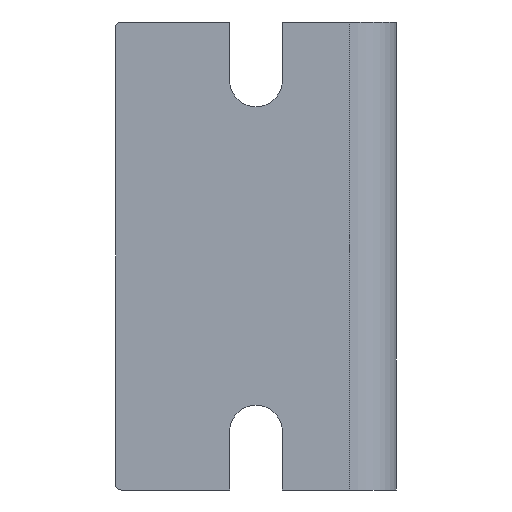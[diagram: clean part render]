
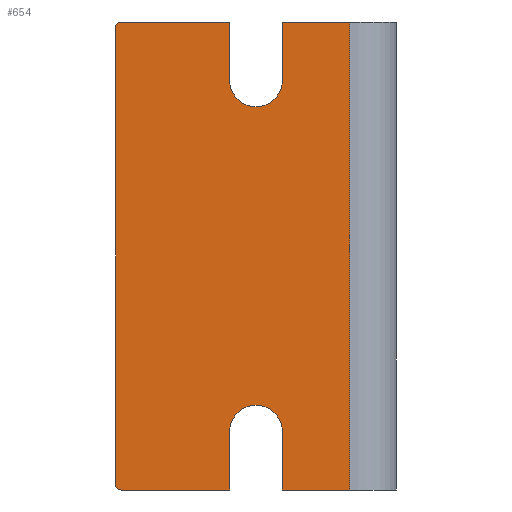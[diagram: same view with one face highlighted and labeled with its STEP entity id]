
A CAD part, front view. The second image highlights one B-rep face of the part: STEP entity #654.
In plain terms, the highlighted planar face has unit normal (0, -1, 0).
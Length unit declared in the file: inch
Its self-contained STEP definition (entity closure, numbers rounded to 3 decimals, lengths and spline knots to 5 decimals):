
#6=DIRECTION('',(1.,0.,0.));
#7=VECTOR('',#6,0.3595);
#8=CARTESIAN_POINT('',(-0.6095,-1.,-1.25));
#9=LINE('',#8,#7);
#35=DIRECTION('',(1.,0.,0.));
#36=VECTOR('',#35,0.5795);
#37=CARTESIAN_POINT('',(-1.47,-1.,-1.25));
#38=LINE('',#37,#36);
#123=CARTESIAN_POINT('',(-1.47,-1.,1.22));
#124=DIRECTION('',(0.,-1.,0.));
#125=DIRECTION('',(0.,0.,1.));
#126=AXIS2_PLACEMENT_3D('',#123,#124,#125);
#128=DIRECTION('',(0.,0.,-1.));
#129=VECTOR('',#128,0.3125);
#130=CARTESIAN_POINT('',(-0.8905,-1.,1.25));
#131=LINE('',#130,#129);
#132=CARTESIAN_POINT('',(-0.75,-1.,0.9375));
#133=DIRECTION('',(0.,1.,0.));
#134=DIRECTION('',(1.,0.,0.));
#135=AXIS2_PLACEMENT_3D('',#132,#133,#134);
#137=DIRECTION('',(0.,0.,-1.));
#138=VECTOR('',#137,0.3125);
#139=CARTESIAN_POINT('',(-0.6095,-1.,1.25));
#140=LINE('',#139,#138);
#141=DIRECTION('',(0.,0.,-1.));
#142=VECTOR('',#141,2.5);
#143=CARTESIAN_POINT('',(-0.25,-1.,1.25));
#144=LINE('',#143,#142);
#145=DIRECTION('',(0.,0.,1.));
#146=VECTOR('',#145,0.3125);
#147=CARTESIAN_POINT('',(-0.6095,-1.,-1.25));
#148=LINE('',#147,#146);
#149=CARTESIAN_POINT('',(-0.75,-1.,-0.9375));
#150=DIRECTION('',(0.,1.,0.));
#151=DIRECTION('',(-1.,0.,0.));
#152=AXIS2_PLACEMENT_3D('',#149,#150,#151);
#154=DIRECTION('',(0.,0.,1.));
#155=VECTOR('',#154,0.3125);
#156=CARTESIAN_POINT('',(-0.8905,-1.,-1.25));
#157=LINE('',#156,#155);
#158=CARTESIAN_POINT('',(-1.47,-1.,-1.22));
#159=DIRECTION('',(0.,-1.,0.));
#160=DIRECTION('',(-1.,0.,0.));
#161=AXIS2_PLACEMENT_3D('',#158,#159,#160);
#163=DIRECTION('',(0.,0.,1.));
#164=VECTOR('',#163,2.44);
#165=CARTESIAN_POINT('',(-1.5,-1.,-1.22));
#166=LINE('',#165,#164);
#192=DIRECTION('',(1.,0.,0.));
#193=VECTOR('',#192,0.3595);
#194=CARTESIAN_POINT('',(-0.6095,-1.,1.25));
#195=LINE('',#194,#193);
#208=DIRECTION('',(1.,0.,0.));
#209=VECTOR('',#208,0.5795);
#210=CARTESIAN_POINT('',(-1.47,-1.,1.25));
#211=LINE('',#210,#209);
#393=CARTESIAN_POINT('',(-0.25,-1.,-1.25));
#395=VERTEX_POINT('',#393);
#396=CARTESIAN_POINT('',(-0.25,-1.,1.25));
#397=VERTEX_POINT('',#396);
#424=CARTESIAN_POINT('',(-0.6095,-1.,-1.25));
#426=VERTEX_POINT('',#424);
#428=CARTESIAN_POINT('',(-0.8905,-1.,-1.25));
#430=VERTEX_POINT('',#428);
#432=CARTESIAN_POINT('',(-0.8905,-1.,1.25));
#434=VERTEX_POINT('',#432);
#436=CARTESIAN_POINT('',(-0.6095,-1.,1.25));
#438=VERTEX_POINT('',#436);
#448=CARTESIAN_POINT('',(-0.6095,-1.,-0.9375));
#449=VERTEX_POINT('',#448);
#450=CARTESIAN_POINT('',(-0.8905,-1.,-0.9375));
#451=VERTEX_POINT('',#450);
#452=CARTESIAN_POINT('',(-0.6095,-1.,0.9375));
#453=CARTESIAN_POINT('',(-0.8905,-1.,0.9375));
#454=VERTEX_POINT('',#452);
#455=VERTEX_POINT('',#453);
#488=CARTESIAN_POINT('',(-1.47,-1.,1.25));
#489=CARTESIAN_POINT('',(-1.5,-1.,1.22));
#490=VERTEX_POINT('',#488);
#491=VERTEX_POINT('',#489);
#500=CARTESIAN_POINT('',(-1.5,-1.,-1.22));
#501=VERTEX_POINT('',#500);
#502=CARTESIAN_POINT('',(-1.47,-1.,-1.25));
#503=VERTEX_POINT('',#502);
#623=CARTESIAN_POINT('',(-1.5,-1.,-1.25));
#624=DIRECTION('',(0.,-1.,0.));
#625=DIRECTION('',(1.,0.,0.));
#626=AXIS2_PLACEMENT_3D('',#623,#624,#625);
#627=PLANE('',#626);
#628=ORIENTED_EDGE('',*,*,#613,.F.);
#630=ORIENTED_EDGE('',*,*,#629,.T.);
#632=ORIENTED_EDGE('',*,*,#631,.T.);
#634=ORIENTED_EDGE('',*,*,#633,.F.);
#636=ORIENTED_EDGE('',*,*,#635,.F.);
#638=ORIENTED_EDGE('',*,*,#637,.T.);
#640=ORIENTED_EDGE('',*,*,#639,.T.);
#641=ORIENTED_EDGE('',*,*,#511,.F.);
#642=ORIENTED_EDGE('',*,*,#554,.T.);
#644=ORIENTED_EDGE('',*,*,#643,.F.);
#646=ORIENTED_EDGE('',*,*,#645,.F.);
#647=ORIENTED_EDGE('',*,*,#535,.F.);
#649=ORIENTED_EDGE('',*,*,#648,.F.);
#651=ORIENTED_EDGE('',*,*,#650,.T.);
#652=EDGE_LOOP('',(#628,#630,#632,#634,#636,#638,#640,#641,#642,#644,#646,#647,
#649,#651));
#653=FACE_OUTER_BOUND('',#652,.F.);
#654=ADVANCED_FACE('',(#653),#627,.T.);
#127=CIRCLE('',#126,0.03);
#136=CIRCLE('',#135,0.1405);
#153=CIRCLE('',#152,0.1405);
#162=CIRCLE('',#161,0.03);
#511=EDGE_CURVE('',#426,#395,#9,.T.);
#535=EDGE_CURVE('',#503,#430,#38,.T.);
#554=EDGE_CURVE('',#426,#449,#148,.T.);
#613=EDGE_CURVE('',#490,#491,#127,.T.);
#629=EDGE_CURVE('',#490,#434,#211,.T.);
#631=EDGE_CURVE('',#434,#455,#131,.T.);
#633=EDGE_CURVE('',#454,#455,#136,.T.);
#635=EDGE_CURVE('',#438,#454,#140,.T.);
#637=EDGE_CURVE('',#438,#397,#195,.T.);
#639=EDGE_CURVE('',#397,#395,#144,.T.);
#643=EDGE_CURVE('',#451,#449,#153,.T.);
#645=EDGE_CURVE('',#430,#451,#157,.T.);
#648=EDGE_CURVE('',#501,#503,#162,.T.);
#650=EDGE_CURVE('',#501,#491,#166,.T.);
